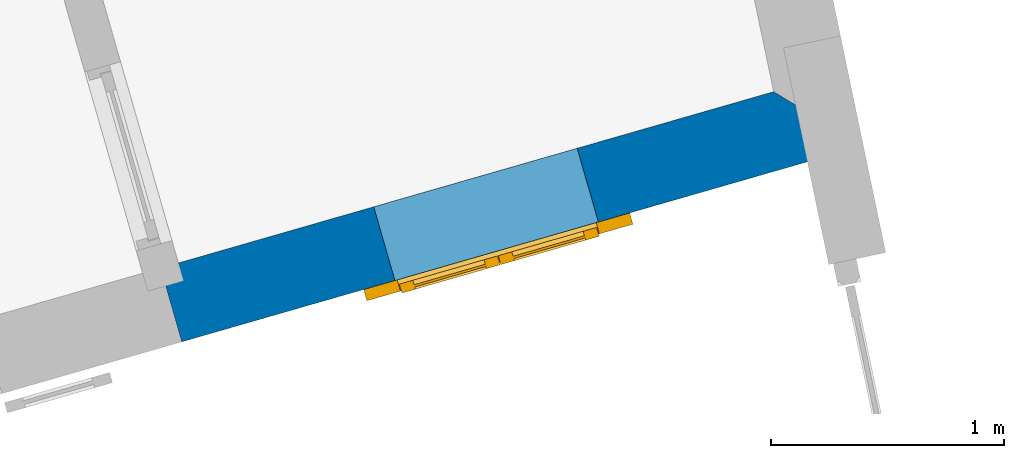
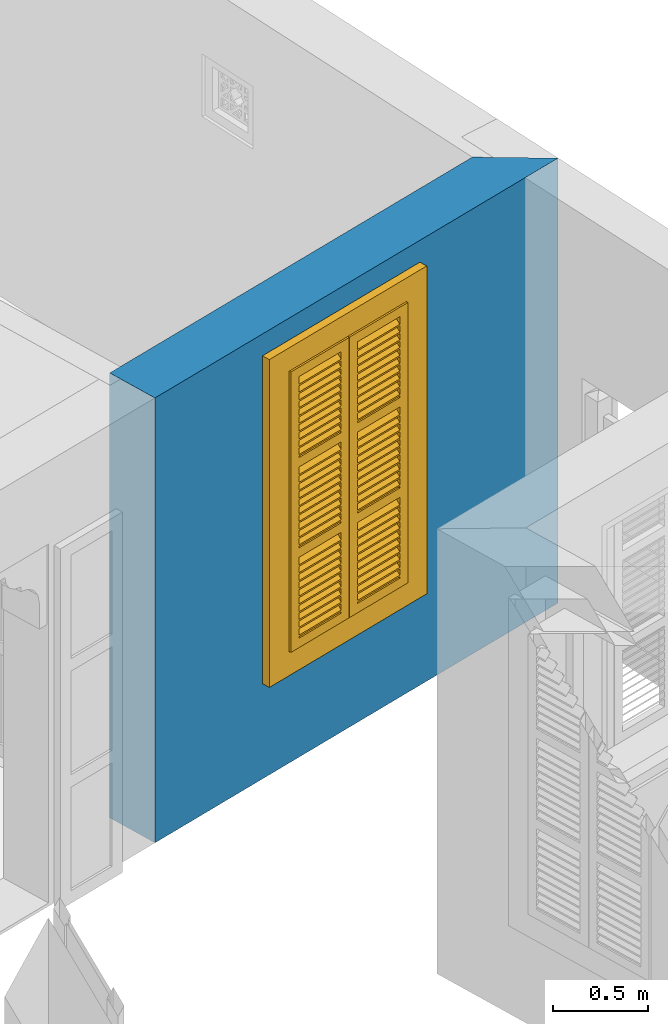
# One storey, part 9 of 16: 1 wall, 1 window, 1 opening.
"""IFC4 building model written with IfcOpenShell, lengths in metres."""

from ifc_helpers import new_model, si_unit, frame, origin, origin_with_axes, place, context, subcontext, project, spatial, polyline, outline, extrude, faceted_brep, source, transform, mapped, material, layer, layer_set, layer_usage, type_object, type_shapes, element, fill, save


model = new_model("IFC4")

# Units and contexts
model_context = context("Model", 3, world=origin_with_axes())
body_context = subcontext(model_context, "Body", "Model", "MODEL_VIEW")
ifc_project = project(units=[si_unit("PLANEANGLEUNIT", "RADIAN"), si_unit("MASSUNIT", "GRAM", prefix="KILO"), si_unit("FORCEUNIT", "NEWTON", prefix="KILO"), si_unit("LENGTHUNIT", "METRE"), si_unit("AREAUNIT", "SQUARE_METRE"), si_unit("VOLUMEUNIT", "CUBIC_METRE")], contexts=[model_context, model_context])

# Site, building, storey
site_placement = place(None, origin_with_axes())
site = spatial("IfcSite", under=ifc_project, at=site_placement, Name="Site plot-9", CompositionType="ELEMENT")
building_placement = place(None, origin_with_axes())
building = spatial("IfcBuilding", under=site, at=building_placement, Name="Building plot-9", CompositionType="ELEMENT")
storey_placement = place(None, origin_with_axes())
storey = spatial("IfcBuildingStorey", under=building, at=storey_placement, Name="plot-9 0", CompositionType="ELEMENT", Elevation=0.0)

# Wall, opening, window
ifc_material = material(Name="Masonry")
ifc_layer = layer(ifc_material, 0.33, ventilated=False)
ifc_layer_set = layer_set([ifc_layer], Name="exterior_0.08_0.25")
ifc_layer_usage = layer_usage(ifc_layer_set, "AXIS2", "POSITIVE", -0.25)
wall_type = type_object("IfcWallType", Name="exterior_0.08_0.25", PredefinedType="SOLIDWALL", material=ifc_layer_set)
wall_placement = place(storey_placement, frame((-16.3540950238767, 4.37730358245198, 0.0), z_axis=(0.0, 0.0, 1.0), x_axis=(0.961007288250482, 0.276523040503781, 0.0)))
wall = element("IfcWall", 1, at=wall_placement, inside=storey, type_object=wall_type, material=ifc_layer_usage, Name="exterior", context=body_context, shape_type="SweptSolid", body=[
    extrude(outline(polyline([(-2.43791370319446e-16, 0.0800000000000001), (-1.42798184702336e-15, -0.25), (3.04851232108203, -0.25), (2.74217666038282, 0.0799999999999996), (-2.43791370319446e-16, 0.0800000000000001)])), origin_with_axes(), (0.0, 0.0, 1.0), 2.85),
])
opening_placement = place(wall_placement, frame((0.953219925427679, 0.0, 0.75)))
opening = element("IfcOpeningElement", 2, at=opening_placement, cuts=wall, Name="My Opening", ObjectType="Opening", context=body_context, shape_type="SweptSolid", body=[
    extrude(outline(polyline([(0.0, -0.27), (0.910000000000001, -0.27), (0.910000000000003, 1.1), (1.33226762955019e-15, 1.1), (0.0, -0.27)])), origin_with_axes(), (0.0, 0.0, 1.0), 1.82),
])
window_type = type_object("IfcWindowType", Name="shuttered_big", PartitioningType="DOUBLE_PANEL_HORIZONTAL", PredefinedType="NOTDEFINED")
shared_shape = source(origin(), body_context, "Body", "Brep", [
    faceted_brep([(0.074, 0.0, 0.810667), (0.393, 0.0, 0.810667), (0.393, 0.0, 0.800667), (0.074, 0.0, 0.800667), (0.074, -0.04, 0.770667), (0.393, -0.04, 0.770667), (0.393, -0.04, 0.760667), (0.074, -0.04, 0.760667), (0.517, 0.0, 0.232), (0.836, 0.0, 0.232), (0.836, 0.0, 0.222), (0.517, 0.0, 0.222), (0.517, -0.04, 0.192), (0.836, -0.04, 0.192), (0.836, -0.04, 0.182), (0.517, -0.04, 0.182), (0.517, 0.0, 0.532), (0.836, 0.0, 0.532), (0.836, 0.0, 0.522), (0.517, 0.0, 0.522), (0.517, -0.04, 0.492), (0.836, -0.04, 0.492), (0.836, -0.04, 0.482), (0.517, -0.04, 0.482), (0.517, 0.0, 0.482), (0.836, 0.0, 0.482), (0.836, 0.0, 0.472), (0.517, 0.0, 0.472), (0.517, -0.04, 0.442), (0.836, -0.04, 0.442), (0.836, -0.04, 0.432), (0.517, -0.04, 0.432), (0.517, 0.0, 0.582), (0.836, 0.0, 0.582), (0.836, 0.0, 0.572), (0.517, 0.0, 0.572), (0.517, -0.04, 0.542), (0.836, -0.04, 0.542), (0.836, -0.04, 0.532), (0.517, -0.04, 0.532), (0.517, 0.0, 0.182), (0.836, 0.0, 0.182), (0.836, 0.0, 0.172), (0.517, 0.0, 0.172), (0.517, -0.04, 0.142), (0.836, -0.04, 0.142), (0.836, -0.04, 0.132), (0.517, -0.04, 0.132), (0.517, 0.0, 0.382), (0.836, 0.0, 0.382), (0.836, 0.0, 0.372), (0.517, 0.0, 0.372), (0.517, -0.04, 0.342), (0.836, -0.04, 0.342), (0.836, -0.04, 0.332), (0.517, -0.04, 0.332), (0.517, 0.0, 0.432), (0.836, 0.0, 0.432), (0.836, 0.0, 0.422), (0.517, 0.0, 0.422), (0.517, -0.04, 0.392), (0.836, -0.04, 0.392), (0.836, -0.04, 0.382), (0.517, -0.04, 0.382), (0.517, 0.0, 0.132), (0.836, 0.0, 0.132), (0.836, 0.0, 0.122), (0.517, 0.0, 0.122), (0.517, -0.04, 0.092), (0.836, -0.04, 0.092), (0.836, -0.04, 0.082), (0.517, -0.04, 0.082), (0.517, 0.0, 0.282), (0.836, 0.0, 0.282), (0.836, 0.0, 0.272), (0.517, 0.0, 0.272), (0.517, -0.04, 0.242), (0.836, -0.04, 0.242), (0.836, -0.04, 0.232), (0.517, -0.04, 0.232), (0.517, 0.0, 0.332), (0.836, 0.0, 0.332), (0.836, 0.0, 0.322), (0.517, 0.0, 0.322), (0.517, -0.04, 0.292), (0.836, -0.04, 0.292), (0.836, -0.04, 0.282), (0.517, -0.04, 0.282), (0.517, 0.0, 0.810667), (0.836, 0.0, 0.810667), (0.836, 0.0, 0.800667), (0.517, 0.0, 0.800667), (0.517, -0.04, 0.770667), (0.836, -0.04, 0.770667), (0.836, -0.04, 0.760667), (0.517, -0.04, 0.760667), (0.517, 0.0, 1.110667), (0.836, 0.0, 1.110667), (0.836, 0.0, 1.100667), (0.517, 0.0, 1.100667), (0.517, -0.04, 1.070667), (0.836, -0.04, 1.070667), (0.836, -0.04, 1.060667), (0.517, -0.04, 1.060667), (0.517, 0.0, 1.060667), (0.836, 0.0, 1.060667), (0.836, 0.0, 1.050667), (0.517, 0.0, 1.050667), (0.517, -0.04, 1.020667), (0.836, -0.04, 1.020667), (0.836, -0.04, 1.010667), (0.517, -0.04, 1.010667), (0.517, 0.0, 1.160667), (0.836, 0.0, 1.160667), (0.836, 0.0, 1.150667), (0.517, 0.0, 1.150667), (0.517, -0.04, 1.120667), (0.836, -0.04, 1.120667), (0.836, -0.04, 1.110667), (0.517, -0.04, 1.110667), (0.517, 0.0, 0.760667), (0.836, 0.0, 0.760667), (0.836, 0.0, 0.750667), (0.517, 0.0, 0.750667), (0.517, -0.04, 0.720667), (0.836, -0.04, 0.720667), (0.836, -0.04, 0.710667), (0.517, -0.04, 0.710667), (0.517, 0.0, 0.960667), (0.836, 0.0, 0.960667), (0.836, 0.0, 0.950667), (0.517, 0.0, 0.950667), (0.517, -0.04, 0.920667), (0.836, -0.04, 0.920667), (0.836, -0.04, 0.910667), (0.517, -0.04, 0.910667), (0.517, 0.0, 1.010667), (0.836, 0.0, 1.010667), (0.836, 0.0, 1.0), (0.517, 0.0, 1.0), (0.517, -0.04, 0.970667), (0.836, -0.04, 0.970667), (0.836, -0.04, 0.960667), (0.517, -0.04, 0.960667), (0.517, 0.0, 0.710667), (0.836, 0.0, 0.710667), (0.836, 0.0, 0.700667), (0.517, 0.0, 0.700667), (0.517, -0.04, 0.670667), (0.836, -0.04, 0.670667), (0.836, -0.04, 0.660667), (0.517, -0.04, 0.660667), (0.517, 0.0, 0.860667), (0.836, 0.0, 0.860667), (0.836, 0.0, 0.850667), (0.517, 0.0, 0.850667), (0.517, -0.04, 0.820667), (0.836, -0.04, 0.820667), (0.836, -0.04, 0.810667), (0.517, -0.04, 0.810667), (0.517, 0.0, 0.910667), (0.836, 0.0, 0.910667), (0.836, 0.0, 0.900667), (0.517, 0.0, 0.900667), (0.517, -0.04, 0.870667), (0.836, -0.04, 0.870667), (0.836, -0.04, 0.860667), (0.517, -0.04, 0.860667), (0.517, 0.0, 1.389333), (0.836, 0.0, 1.389333), (0.836, 0.0, 1.379333), (0.517, 0.0, 1.379333), (0.517, -0.04, 1.349333), (0.836, -0.04, 1.349333), (0.836, -0.04, 1.339333), (0.517, -0.04, 1.339333), (0.517, 0.0, 1.689333), (0.836, 0.0, 1.689333), (0.836, 0.0, 1.679333), (0.517, 0.0, 1.679333), (0.517, -0.04, 1.649333), (0.836, -0.04, 1.649333), (0.836, -0.04, 1.639333), (0.517, -0.04, 1.639333), (0.517, 0.0, 1.639333), (0.836, 0.0, 1.639333), (0.836, 0.0, 1.629333), (0.517, 0.0, 1.629333), (0.517, -0.04, 1.599333), (0.836, -0.04, 1.599333), (0.836, -0.04, 1.589333), (0.517, -0.04, 1.589333), (0.517, 0.0, 1.739333), (0.836, 0.0, 1.739333), (0.836, 0.0, 1.729333), (0.517, 0.0, 1.729333), (0.517, -0.04, 1.699333), (0.836, -0.04, 1.699333), (0.836, -0.04, 1.689333), (0.517, -0.04, 1.689333), (0.517, 0.0, 1.339333), (0.836, 0.0, 1.339333), (0.836, 0.0, 1.329333), (0.517, 0.0, 1.329333), (0.517, -0.04, 1.299333), (0.836, -0.04, 1.299333), (0.836, -0.04, 1.289333), (0.517, -0.04, 1.289333), (0.517, 0.0, 1.539333), (0.836, 0.0, 1.539333), (0.836, 0.0, 1.529333), (0.517, 0.0, 1.529333), (0.517, -0.04, 1.499333), (0.836, -0.04, 1.499333), (0.836, -0.04, 1.489333), (0.517, -0.04, 1.489333), (0.517, 0.0, 1.589333), (0.836, 0.0, 1.589333), (0.836, 0.0, 1.579333), (0.517, 0.0, 1.579333), (0.517, -0.04, 1.549333), (0.836, -0.04, 1.549333), (0.836, -0.04, 1.539333), (0.517, -0.04, 1.539333), (0.517, 0.0, 1.289333), (0.836, 0.0, 1.289333), (0.836, 0.0, 1.279333), (0.517, 0.0, 1.279333), (0.517, -0.04, 1.249333), (0.836, -0.04, 1.249333), (0.836, -0.04, 1.239333), (0.517, -0.04, 1.239333), (0.517, 0.0, 1.439333), (0.836, 0.0, 1.439333), (0.836, 0.0, 1.429333), (0.517, 0.0, 1.429333), (0.517, -0.04, 1.399333), (0.836, -0.04, 1.399333), (0.836, -0.04, 1.389333), (0.517, -0.04, 1.389333), (0.517, 0.0, 1.489333), (0.836, 0.0, 1.489333), (0.836, 0.0, 1.479333), (0.517, 0.0, 1.479333), (0.517, -0.04, 1.449333), (0.836, -0.04, 1.449333), (0.836, -0.04, 1.439333), (0.517, -0.04, 1.439333), (0.074, 0.0, 0.232), (0.393, 0.0, 0.232), (0.393, 0.0, 0.222), (0.074, 0.0, 0.222), (0.074, -0.04, 0.192), (0.393, -0.04, 0.192), (0.393, -0.04, 0.182), (0.074, -0.04, 0.182), (0.074, 0.0, 0.532), (0.393, 0.0, 0.532), (0.393, 0.0, 0.522), (0.074, 0.0, 0.522), (0.074, -0.04, 0.492), (0.393, -0.04, 0.492), (0.393, -0.04, 0.482), (0.074, -0.04, 0.482), (0.074, 0.0, 0.482), (0.393, 0.0, 0.482), (0.393, 0.0, 0.472), (0.074, 0.0, 0.472), (0.074, -0.04, 0.442), (0.393, -0.04, 0.442), (0.393, -0.04, 0.432), (0.074, -0.04, 0.432), (0.074, 0.0, 0.582), (0.393, 0.0, 0.582), (0.393, 0.0, 0.572), (0.074, 0.0, 0.572), (0.074, -0.04, 0.542), (0.393, -0.04, 0.542), (0.393, -0.04, 0.532), (0.074, -0.04, 0.532), (0.074, 0.0, 0.182), (0.393, 0.0, 0.182), (0.393, 0.0, 0.172), (0.074, 0.0, 0.172), (0.074, -0.04, 0.142), (0.393, -0.04, 0.142), (0.393, -0.04, 0.132), (0.074, -0.04, 0.132), (0.074, 0.0, 0.382), (0.393, 0.0, 0.382), (0.393, 0.0, 0.372), (0.074, 0.0, 0.372), (0.074, -0.04, 0.342), (0.393, -0.04, 0.342), (0.393, -0.04, 0.332), (0.074, -0.04, 0.332), (0.074, 0.0, 0.432), (0.393, 0.0, 0.432), (0.393, 0.0, 0.422), (0.074, 0.0, 0.422), (0.074, -0.04, 0.392), (0.393, -0.04, 0.392), (0.393, -0.04, 0.382), (0.074, -0.04, 0.382), (0.074, 0.0, 0.132), (0.393, 0.0, 0.132), (0.393, 0.0, 0.122), (0.074, 0.0, 0.122), (0.074, -0.04, 0.092), (0.393, -0.04, 0.092), (0.393, -0.04, 0.082), (0.074, -0.04, 0.082), (0.074, 0.0, 0.282), (0.393, 0.0, 0.282), (0.393, 0.0, 0.272), (0.074, 0.0, 0.272), (0.074, -0.04, 0.242), (0.393, -0.04, 0.242), (0.393, -0.04, 0.232), (0.074, -0.04, 0.232), (0.074, 0.0, 0.332), (0.393, 0.0, 0.332), (0.393, 0.0, 0.322), (0.074, 0.0, 0.322), (0.074, -0.04, 0.292), (0.393, -0.04, 0.292), (0.393, -0.04, 0.282), (0.074, -0.04, 0.282), (0.074, 0.0, 1.110667), (0.393, 0.0, 1.110667), (0.393, 0.0, 1.100667), (0.074, 0.0, 1.100667), (0.074, -0.04, 1.070667), (0.393, -0.04, 1.070667), (0.393, -0.04, 1.060667), (0.074, -0.04, 1.060667), (0.074, 0.0, 1.060667), (0.393, 0.0, 1.060667), (0.393, 0.0, 1.050667), (0.074, 0.0, 1.050667), (0.074, -0.04, 1.020667), (0.393, -0.04, 1.020667), (0.393, -0.04, 1.010667), (0.074, -0.04, 1.010667), (0.074, 0.0, 1.160667), (0.393, 0.0, 1.160667), (0.393, 0.0, 1.150667), (0.074, 0.0, 1.150667), (0.074, -0.04, 1.120667), (0.393, -0.04, 1.120667), (0.393, -0.04, 1.110667), (0.074, -0.04, 1.110667), (0.074, 0.0, 0.760667), (0.393, 0.0, 0.760667), (0.393, 0.0, 0.750667), (0.074, 0.0, 0.750667), (0.074, -0.04, 0.720667), (0.393, -0.04, 0.720667), (0.393, -0.04, 0.710667), (0.074, -0.04, 0.710667), (0.074, 0.0, 0.960667), (0.393, 0.0, 0.960667), (0.393, 0.0, 0.950667), (0.074, 0.0, 0.950667), (0.074, -0.04, 0.920667), (0.393, -0.04, 0.920667), (0.393, -0.04, 0.910667), (0.074, -0.04, 0.910667), (0.074, 0.0, 1.010667), (0.393, 0.0, 1.010667), (0.393, 0.0, 1.0), (0.074, 0.0, 1.0), (0.074, -0.04, 0.970667), (0.393, -0.04, 0.970667), (0.393, -0.04, 0.960667), (0.074, -0.04, 0.960667), (0.074, 0.0, 0.710667), (0.393, 0.0, 0.710667), (0.393, 0.0, 0.700667), (0.074, 0.0, 0.700667), (0.074, -0.04, 0.670667), (0.393, -0.04, 0.670667), (0.393, -0.04, 0.660667), (0.074, -0.04, 0.660667), (0.074, 0.0, 0.860667), (0.393, 0.0, 0.860667), (0.393, 0.0, 0.850667), (0.074, 0.0, 0.850667), (0.074, -0.04, 0.820667), (0.393, -0.04, 0.820667), (0.393, -0.04, 0.810667), (0.074, -0.04, 0.810667), (0.074, 0.0, 0.910667), (0.393, 0.0, 0.910667), (0.393, 0.0, 0.900667), (0.074, 0.0, 0.900667), (0.074, -0.04, 0.870667), (0.393, -0.04, 0.870667), (0.393, -0.04, 0.860667), (0.074, -0.04, 0.860667), (0.074, 0.0, 1.389333), (0.393, 0.0, 1.389333), (0.393, 0.0, 1.379333), (0.074, 0.0, 1.379333), (0.074, -0.04, 1.349333), (0.393, -0.04, 1.349333), (0.393, -0.04, 1.339333), (0.074, -0.04, 1.339333), (0.074, 0.0, 1.689333), (0.393, 0.0, 1.689333), (0.393, 0.0, 1.679333), (0.074, 0.0, 1.679333), (0.074, -0.04, 1.649333), (0.393, -0.04, 1.649333), (0.393, -0.04, 1.639333), (0.074, -0.04, 1.639333), (0.074, 0.0, 1.639333), (0.393, 0.0, 1.639333), (0.393, 0.0, 1.629333), (0.074, 0.0, 1.629333), (0.074, -0.04, 1.599333), (0.393, -0.04, 1.599333), (0.393, -0.04, 1.589333), (0.074, -0.04, 1.589333), (0.074, 0.0, 1.739333), (0.393, 0.0, 1.739333), (0.393, 0.0, 1.729333), (0.074, 0.0, 1.729333), (0.074, -0.04, 1.699333), (0.393, -0.04, 1.699333), (0.393, -0.04, 1.689333), (0.074, -0.04, 1.689333), (0.074, 0.0, 1.339333), (0.393, 0.0, 1.339333), (0.393, 0.0, 1.329333), (0.074, 0.0, 1.329333), (0.074, -0.04, 1.299333), (0.393, -0.04, 1.299333), (0.393, -0.04, 1.289333), (0.074, -0.04, 1.289333), (0.074, 0.0, 1.539333), (0.393, 0.0, 1.539333), (0.393, 0.0, 1.529333), (0.074, 0.0, 1.529333), (0.074, -0.04, 1.499333), (0.393, -0.04, 1.499333), (0.393, -0.04, 1.489333), (0.074, -0.04, 1.489333), (0.074, 0.0, 1.589333), (0.393, 0.0, 1.589333), (0.393, 0.0, 1.579333), (0.074, 0.0, 1.579333), (0.074, -0.04, 1.549333), (0.393, -0.04, 1.549333), (0.393, -0.04, 1.539333), (0.074, -0.04, 1.539333), (0.074, 0.0, 1.289333), (0.393, 0.0, 1.289333), (0.393, 0.0, 1.279333), (0.074, 0.0, 1.279333), (0.074, -0.04, 1.249333), (0.393, -0.04, 1.249333), (0.393, -0.04, 1.239333), (0.074, -0.04, 1.239333), (0.074, 0.0, 1.439333), (0.393, 0.0, 1.439333), (0.393, 0.0, 1.429333), (0.074, 0.0, 1.429333), (0.074, -0.04, 1.399333), (0.393, -0.04, 1.399333), (0.393, -0.04, 1.389333), (0.074, -0.04, 1.389333), (0.074, 0.0, 1.489333), (0.393, 0.0, 1.489333), (0.393, 0.0, 1.479333), (0.074, 0.0, 1.479333), (0.074, -0.04, 1.449333), (0.393, -0.04, 1.449333), (0.393, -0.04, 1.439333), (0.074, -0.04, 1.439333), (0.517, -0.04, 0.072), (0.457, -0.04, 0.012), (0.896, -0.04, 0.012), (0.836, -0.04, 0.072), (0.457, -0.04, 0.590667), (0.517, -0.04, 0.590667), (0.457, 0.0, 0.012), (0.896, 0.0, 0.012), (0.836, -0.04, 0.590667), (0.896, -0.04, 0.590667), (0.836, 0.0, 0.072), (0.517, 0.0, 0.072), (0.457, 0.0, 0.590667), (0.517, 0.0, 0.590667), (0.517, -0.04, 0.650667), (0.457, -0.04, 0.650667), (0.896, 0.0, 0.590667), (0.836, 0.0, 0.590667), (0.836, -0.04, 0.650667), (0.896, -0.04, 0.650667), (0.457, 0.0, 0.650667), (0.457, -0.04, 1.169333), (0.517, -0.04, 1.169333), (0.896, 0.0, 0.650667), (0.836, -0.04, 1.169333), (0.896, -0.04, 1.169333), (0.457, 0.0, 1.169333), (0.517, 0.0, 0.650667), (0.836, 0.0, 0.650667), (0.517, 0.0, 1.169333), (0.517, -0.04, 1.229333), (0.457, -0.04, 1.229333), (0.896, 0.0, 1.169333), (0.836, 0.0, 1.169333), (0.836, -0.04, 1.229333), (0.896, -0.04, 1.229333), (0.457, 0.0, 1.229333), (0.517, -0.04, 1.748), (0.457, -0.04, 1.808), (0.896, 0.0, 1.229333), (0.896, -0.04, 1.808), (0.836, -0.04, 1.748), (0.457, 0.0, 1.808), (0.517, 0.0, 1.229333), (0.836, 0.0, 1.229333), (0.517, 0.0, 1.748), (0.896, 0.0, 1.808), (0.836, 0.0, 1.748), (0.074, -0.04, 0.072), (0.014, -0.04, 0.012), (0.453, -0.04, 0.012), (0.393, -0.04, 0.072), (0.014, -0.04, 0.590667), (0.074, -0.04, 0.590667), (0.014, 0.0, 0.012), (0.453, 0.0, 0.012), (0.393, -0.04, 0.590667), (0.453, -0.04, 0.590667), (0.393, 0.0, 0.072), (0.074, 0.0, 0.072), (0.014, 0.0, 0.590667), (0.074, 0.0, 0.590667), (0.074, -0.04, 0.650667), (0.014, -0.04, 0.650667), (0.453, 0.0, 0.590667), (0.393, 0.0, 0.590667), (0.393, -0.04, 0.650667), (0.453, -0.04, 0.650667), (0.014, 0.0, 0.650667), (0.014, -0.04, 1.169333), (0.074, -0.04, 1.169333), (0.453, 0.0, 0.650667), (0.393, -0.04, 1.169333), (0.453, -0.04, 1.169333), (0.014, 0.0, 1.169333), (0.074, 0.0, 0.650667), (0.393, 0.0, 0.650667), (0.074, 0.0, 1.169333), (0.074, -0.04, 1.229333), (0.014, -0.04, 1.229333), (0.453, 0.0, 1.169333), (0.393, 0.0, 1.169333), (0.393, -0.04, 1.229333), (0.453, -0.04, 1.229333), (0.014, 0.0, 1.229333), (0.074, -0.04, 1.748), (0.014, -0.04, 1.808), (0.453, 0.0, 1.229333), (0.453, -0.04, 1.808), (0.393, -0.04, 1.748), (0.014, 0.0, 1.808), (0.074, 0.0, 1.229333), (0.393, 0.0, 1.229333), (0.074, 0.0, 1.748), (0.453, 0.0, 1.808), (0.393, 0.0, 1.748), (0.0, 0.33, 1.82), (0.91, 0.33, 1.82), (0.85, 0.33, 1.76), (0.06, 0.33, 1.76), (1.05, -0.03, 1.96), (1.05, 0.25, 1.96), (-0.14, 0.25, 1.96), (-0.14, -0.03, 1.96), (0.0, 0.25, 1.82), (0.91, 0.25, 1.82), (0.9, 0.25, 1.81), (0.01, 0.25, 1.81), (0.85, 0.33, 0.06), (0.91, 0.33, 0.0), (0.85, 0.25, 1.76), (0.06, 0.25, 1.76), (0.0, 0.33, 0.0), (0.06, 0.33, 0.06), (0.0, 0.25, 0.0), (0.910046, 0.25, 1.82), (0.91, 0.25, 0.0), (0.85, 0.25, 0.06), (0.06, 0.25, 0.06), (0.9, 0.25, 0.01), (0.9, -0.03, 0.01), (0.9, -0.03, 1.81), (0.01, -0.03, 0.01), (-0.14, -0.03, -0.14), (1.05, -0.03, -0.14), (0.01, -0.03, 1.81), (0.01, 0.25, 0.01), (1.05, 0.25, -0.14), (-0.14, 0.25, -0.14)], [[[0, 1, 2, 3]], [[1, 0, 4, 5]], [[2, 1, 5, 6]], [[6, 7, 3, 2]], [[7, 4, 0, 3]], [[5, 4, 7, 6]], [[8, 9, 10, 11]], [[12, 13, 9, 8]], [[13, 14, 10, 9]], [[14, 15, 11, 10]], [[15, 12, 8, 11]], [[13, 12, 15, 14]], [[16, 17, 18, 19]], [[20, 21, 17, 16]], [[21, 22, 18, 17]], [[22, 23, 19, 18]], [[23, 20, 16, 19]], [[21, 20, 23, 22]], [[24, 25, 26, 27]], [[28, 29, 25, 24]], [[29, 30, 26, 25]], [[30, 31, 27, 26]], [[31, 28, 24, 27]], [[29, 28, 31, 30]], [[32, 33, 34, 35]], [[36, 37, 33, 32]], [[37, 38, 34, 33]], [[38, 39, 35, 34]], [[39, 36, 32, 35]], [[37, 36, 39, 38]], [[40, 41, 42, 43]], [[44, 45, 41, 40]], [[45, 46, 42, 41]], [[46, 47, 43, 42]], [[47, 44, 40, 43]], [[45, 44, 47, 46]], [[48, 49, 50, 51]], [[52, 53, 49, 48]], [[53, 54, 50, 49]], [[54, 55, 51, 50]], [[55, 52, 48, 51]], [[53, 52, 55, 54]], [[56, 57, 58, 59]], [[60, 61, 57, 56]], [[61, 62, 58, 57]], [[62, 63, 59, 58]], [[63, 60, 56, 59]], [[61, 60, 63, 62]], [[64, 65, 66, 67]], [[68, 69, 65, 64]], [[69, 70, 66, 65]], [[70, 71, 67, 66]], [[71, 68, 64, 67]], [[69, 68, 71, 70]], [[72, 73, 74, 75]], [[76, 77, 73, 72]], [[77, 78, 74, 73]], [[78, 79, 75, 74]], [[79, 76, 72, 75]], [[77, 76, 79, 78]], [[80, 81, 82, 83]], [[84, 85, 81, 80]], [[85, 86, 82, 81]], [[86, 87, 83, 82]], [[87, 84, 80, 83]], [[85, 84, 87, 86]], [[88, 89, 90, 91]], [[92, 93, 89, 88]], [[93, 94, 90, 89]], [[94, 95, 91, 90]], [[95, 92, 88, 91]], [[93, 92, 95, 94]], [[96, 97, 98, 99]], [[100, 101, 97, 96]], [[101, 102, 98, 97]], [[102, 103, 99, 98]], [[103, 100, 96, 99]], [[101, 100, 103, 102]], [[104, 105, 106, 107]], [[108, 109, 105, 104]], [[109, 110, 106, 105]], [[110, 111, 107, 106]], [[111, 108, 104, 107]], [[109, 108, 111, 110]], [[112, 113, 114, 115]], [[116, 117, 113, 112]], [[117, 118, 114, 113]], [[118, 119, 115, 114]], [[119, 116, 112, 115]], [[117, 116, 119, 118]], [[120, 121, 122, 123]], [[124, 125, 121, 120]], [[125, 126, 122, 121]], [[126, 127, 123, 122]], [[127, 124, 120, 123]], [[125, 124, 127, 126]], [[128, 129, 130, 131]], [[132, 133, 129, 128]], [[133, 134, 130, 129]], [[134, 135, 131, 130]], [[135, 132, 128, 131]], [[133, 132, 135, 134]], [[136, 137, 138, 139]], [[140, 141, 137, 136]], [[141, 142, 138, 137]], [[142, 143, 139, 138]], [[143, 140, 136, 139]], [[141, 140, 143, 142]], [[144, 145, 146, 147]], [[148, 149, 145, 144]], [[149, 150, 146, 145]], [[150, 151, 147, 146]], [[151, 148, 144, 147]], [[149, 148, 151, 150]], [[152, 153, 154, 155]], [[156, 157, 153, 152]], [[157, 158, 154, 153]], [[158, 159, 155, 154]], [[159, 156, 152, 155]], [[157, 156, 159, 158]], [[160, 161, 162, 163]], [[164, 165, 161, 160]], [[165, 166, 162, 161]], [[166, 167, 163, 162]], [[167, 164, 160, 163]], [[165, 164, 167, 166]], [[168, 169, 170, 171]], [[172, 173, 169, 168]], [[173, 174, 170, 169]], [[174, 175, 171, 170]], [[175, 172, 168, 171]], [[173, 172, 175, 174]], [[176, 177, 178, 179]], [[180, 181, 177, 176]], [[181, 182, 178, 177]], [[182, 183, 179, 178]], [[183, 180, 176, 179]], [[181, 180, 183, 182]], [[184, 185, 186, 187]], [[188, 189, 185, 184]], [[189, 190, 186, 185]], [[190, 191, 187, 186]], [[191, 188, 184, 187]], [[189, 188, 191, 190]], [[192, 193, 194, 195]], [[196, 197, 193, 192]], [[197, 198, 194, 193]], [[198, 199, 195, 194]], [[199, 196, 192, 195]], [[197, 196, 199, 198]], [[200, 201, 202, 203]], [[204, 205, 201, 200]], [[205, 206, 202, 201]], [[206, 207, 203, 202]], [[207, 204, 200, 203]], [[205, 204, 207, 206]], [[208, 209, 210, 211]], [[212, 213, 209, 208]], [[213, 214, 210, 209]], [[214, 215, 211, 210]], [[215, 212, 208, 211]], [[213, 212, 215, 214]], [[216, 217, 218, 219]], [[220, 221, 217, 216]], [[221, 222, 218, 217]], [[222, 223, 219, 218]], [[223, 220, 216, 219]], [[221, 220, 223, 222]], [[224, 225, 226, 227]], [[228, 229, 225, 224]], [[229, 230, 226, 225]], [[230, 231, 227, 226]], [[231, 228, 224, 227]], [[229, 228, 231, 230]], [[232, 233, 234, 235]], [[236, 237, 233, 232]], [[237, 238, 234, 233]], [[238, 239, 235, 234]], [[239, 236, 232, 235]], [[237, 236, 239, 238]], [[240, 241, 242, 243]], [[244, 245, 241, 240]], [[245, 246, 242, 241]], [[246, 247, 243, 242]], [[247, 244, 240, 243]], [[245, 244, 247, 246]], [[248, 249, 250, 251]], [[252, 253, 249, 248]], [[253, 254, 250, 249]], [[254, 255, 251, 250]], [[255, 252, 248, 251]], [[253, 252, 255, 254]], [[256, 257, 258, 259]], [[260, 261, 257, 256]], [[261, 262, 258, 257]], [[262, 263, 259, 258]], [[263, 260, 256, 259]], [[261, 260, 263, 262]], [[264, 265, 266, 267]], [[268, 269, 265, 264]], [[269, 270, 266, 265]], [[270, 271, 267, 266]], [[271, 268, 264, 267]], [[269, 268, 271, 270]], [[272, 273, 274, 275]], [[276, 277, 273, 272]], [[277, 278, 274, 273]], [[278, 279, 275, 274]], [[279, 276, 272, 275]], [[277, 276, 279, 278]], [[280, 281, 282, 283]], [[284, 285, 281, 280]], [[285, 286, 282, 281]], [[286, 287, 283, 282]], [[287, 284, 280, 283]], [[285, 284, 287, 286]], [[288, 289, 290, 291]], [[292, 293, 289, 288]], [[293, 294, 290, 289]], [[294, 295, 291, 290]], [[295, 292, 288, 291]], [[293, 292, 295, 294]], [[296, 297, 298, 299]], [[300, 301, 297, 296]], [[301, 302, 298, 297]], [[302, 303, 299, 298]], [[303, 300, 296, 299]], [[301, 300, 303, 302]], [[304, 305, 306, 307]], [[308, 309, 305, 304]], [[309, 310, 306, 305]], [[310, 311, 307, 306]], [[311, 308, 304, 307]], [[309, 308, 311, 310]], [[312, 313, 314, 315]], [[316, 317, 313, 312]], [[317, 318, 314, 313]], [[318, 319, 315, 314]], [[319, 316, 312, 315]], [[317, 316, 319, 318]], [[320, 321, 322, 323]], [[324, 325, 321, 320]], [[325, 326, 322, 321]], [[326, 327, 323, 322]], [[327, 324, 320, 323]], [[325, 324, 327, 326]], [[328, 329, 330, 331]], [[332, 333, 329, 328]], [[333, 334, 330, 329]], [[334, 335, 331, 330]], [[335, 332, 328, 331]], [[333, 332, 335, 334]], [[336, 337, 338, 339]], [[340, 341, 337, 336]], [[341, 342, 338, 337]], [[342, 343, 339, 338]], [[343, 340, 336, 339]], [[341, 340, 343, 342]], [[344, 345, 346, 347]], [[348, 349, 345, 344]], [[349, 350, 346, 345]], [[350, 351, 347, 346]], [[351, 348, 344, 347]], [[349, 348, 351, 350]], [[352, 353, 354, 355]], [[356, 357, 353, 352]], [[357, 358, 354, 353]], [[358, 359, 355, 354]], [[359, 356, 352, 355]], [[357, 356, 359, 358]], [[360, 361, 362, 363]], [[364, 365, 361, 360]], [[365, 366, 362, 361]], [[366, 367, 363, 362]], [[367, 364, 360, 363]], [[366, 365, 364, 367]], [[368, 369, 370, 371]], [[372, 373, 369, 368]], [[373, 374, 370, 369]], [[374, 375, 371, 370]], [[375, 372, 368, 371]], [[373, 372, 375, 374]], [[376, 377, 378, 379]], [[380, 381, 377, 376]], [[381, 382, 378, 377]], [[382, 383, 379, 378]], [[383, 380, 376, 379]], [[381, 380, 383, 382]], [[384, 385, 386, 387]], [[388, 389, 385, 384]], [[389, 390, 386, 385]], [[390, 391, 387, 386]], [[391, 388, 384, 387]], [[389, 388, 391, 390]], [[392, 393, 394, 395]], [[396, 397, 393, 392]], [[397, 398, 394, 393]], [[398, 399, 395, 394]], [[399, 396, 392, 395]], [[397, 396, 399, 398]], [[400, 401, 402, 403]], [[404, 405, 401, 400]], [[405, 406, 402, 401]], [[406, 407, 403, 402]], [[407, 404, 400, 403]], [[405, 404, 407, 406]], [[408, 409, 410, 411]], [[412, 413, 409, 408]], [[413, 414, 410, 409]], [[414, 415, 411, 410]], [[415, 412, 408, 411]], [[414, 413, 412, 415]], [[416, 417, 418, 419]], [[420, 421, 417, 416]], [[421, 422, 418, 417]], [[422, 423, 419, 418]], [[423, 420, 416, 419]], [[421, 420, 423, 422]], [[424, 425, 426, 427]], [[428, 429, 425, 424]], [[429, 430, 426, 425]], [[430, 431, 427, 426]], [[431, 428, 424, 427]], [[429, 428, 431, 430]], [[432, 433, 434, 435]], [[436, 437, 433, 432]], [[437, 438, 434, 433]], [[438, 439, 435, 434]], [[439, 436, 432, 435]], [[437, 436, 439, 438]], [[440, 441, 442, 443]], [[444, 445, 441, 440]], [[445, 446, 442, 441]], [[446, 447, 443, 442]], [[447, 444, 440, 443]], [[445, 444, 447, 446]], [[448, 449, 450, 451]], [[452, 453, 449, 448]], [[453, 454, 450, 449]], [[454, 455, 451, 450]], [[455, 452, 448, 451]], [[453, 452, 455, 454]], [[456, 457, 458, 459]], [[460, 461, 457, 456]], [[461, 462, 458, 457]], [[462, 463, 459, 458]], [[463, 460, 456, 459]], [[461, 460, 463, 462]], [[464, 465, 466, 467]], [[468, 469, 465, 464]], [[469, 470, 466, 465]], [[470, 471, 467, 466]], [[471, 468, 464, 467]], [[469, 468, 471, 470]], [[472, 473, 474, 475]], [[476, 477, 473, 472]], [[477, 478, 474, 473]], [[478, 479, 475, 474]], [[479, 476, 472, 475]], [[477, 476, 479, 478]], [[480, 481, 482, 483]], [[484, 481, 480, 485]], [[486, 487, 482, 481]], [[488, 483, 482, 489]], [[480, 483, 490, 491]], [[486, 481, 484, 492]], [[485, 480, 491, 493]], [[485, 494, 495, 484]], [[486, 491, 490, 487]], [[496, 489, 482, 487]], [[483, 488, 497, 490]], [[498, 488, 489, 499]], [[492, 484, 495, 500]], [[486, 492, 493, 491]], [[488, 485, 493, 497]], [[494, 485, 488, 498]], [[501, 495, 494, 502]], [[490, 497, 496, 487]], [[503, 499, 489, 496]], [[504, 498, 499, 505]], [[500, 495, 501, 506]], [[507, 493, 492, 500]], [[493, 507, 508, 497]], [[494, 498, 508, 507]], [[502, 494, 507, 509]], [[502, 510, 511, 501]], [[497, 508, 503, 496]], [[512, 505, 499, 503]], [[498, 504, 513, 508]], [[514, 504, 505, 515]], [[506, 501, 511, 516]], [[500, 506, 509, 507]], [[504, 502, 509, 513]], [[510, 502, 504, 514]], [[510, 517, 518, 511]], [[508, 513, 512, 503]], [[519, 515, 505, 512]], [[515, 520, 521, 514]], [[516, 511, 518, 522]], [[523, 509, 506, 516]], [[509, 523, 524, 513]], [[510, 514, 524, 523]], [[517, 510, 523, 525]], [[518, 517, 521, 520]], [[513, 524, 519, 512]], [[526, 520, 515, 519]], [[514, 521, 527, 524]], [[522, 518, 520, 526]], [[525, 523, 516, 522]], [[521, 517, 525, 527]], [[526, 519, 524, 527]], [[525, 522, 526, 527]], [[528, 529, 530, 531]], [[532, 529, 528, 533]], [[534, 535, 530, 529]], [[536, 531, 530, 537]], [[528, 531, 538, 539]], [[534, 529, 532, 540]], [[533, 528, 539, 541]], [[533, 542, 543, 532]], [[534, 539, 538, 535]], [[544, 537, 530, 535]], [[531, 536, 545, 538]], [[546, 536, 537, 547]], [[540, 532, 543, 548]], [[534, 540, 541, 539]], [[536, 533, 541, 545]], [[542, 533, 536, 546]], [[549, 543, 542, 550]], [[538, 545, 544, 535]], [[551, 547, 537, 544]], [[552, 546, 547, 553]], [[548, 543, 549, 554]], [[555, 541, 540, 548]], [[541, 555, 556, 545]], [[542, 546, 556, 555]], [[550, 542, 555, 557]], [[550, 558, 559, 549]], [[545, 556, 551, 544]], [[560, 553, 547, 551]], [[546, 552, 561, 556]], [[562, 552, 553, 563]], [[554, 549, 559, 564]], [[548, 554, 557, 555]], [[552, 550, 557, 561]], [[558, 550, 552, 562]], [[558, 565, 566, 559]], [[556, 561, 560, 551]], [[567, 563, 553, 560]], [[563, 568, 569, 562]], [[564, 559, 566, 570]], [[571, 557, 554, 564]], [[557, 571, 572, 561]], [[558, 562, 572, 571]], [[565, 558, 571, 573]], [[566, 565, 569, 568]], [[561, 572, 567, 560]], [[574, 568, 563, 567]], [[562, 569, 575, 572]], [[570, 566, 568, 574]], [[573, 571, 564, 570]], [[569, 565, 573, 575]], [[574, 567, 572, 575]], [[573, 570, 574, 575]], [[576, 577, 578, 579]], [[580, 581, 582, 583]], [[576, 584, 585, 577]], [[582, 581, 586, 587]], [[588, 578, 577, 589]], [[579, 578, 590, 591]], [[592, 576, 579, 593]], [[576, 592, 594, 584]], [[595, 584, 591, 590]], [[596, 585, 595]], [[595, 590, 597]], [[595, 597, 596]], [[589, 577, 585, 596]], [[578, 588, 597, 590]], [[589, 592, 593, 588]], [[593, 579, 591, 598]], [[592, 589, 596, 594]], [[598, 591, 584, 594]], [[594, 596, 597, 598]], [[588, 593, 598, 597]], [[599, 600, 601, 586]], [[602, 603, 604, 600]], [[601, 605, 587, 586]], [[600, 599, 606, 602]], [[607, 604, 603, 608]], [[599, 607, 608, 606]], [[605, 602, 606, 587]], [[602, 605, 583, 603]], [[600, 604, 580, 601]], [[580, 583, 605, 601]], [[606, 608, 582, 587]], [[599, 586, 581, 607]], [[582, 608, 603, 583]], [[580, 604, 607, 581]]]),
])
type_shapes(window_type, [shared_shape])
window_placement = place(storey_placement, frame((-15.3633825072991, 4.3814188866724, 0.75), z_axis=(0.0, 0.0, 1.0), x_axis=(0.874516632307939, 0.251635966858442, 0.0)))
window = element("IfcWindow", 3, at=window_placement, inside=storey, type_object=window_type, Name="toilet sahn window", OverallHeight=1.82, OverallWidth=0.91, context=body_context, shape_type="MappedRepresentation", body=[
    mapped(shared_shape, transform((0.0, 0.0, 0.0), scale=1.0)),
])
fill(opening, window)

save(model, "model.ifc")
